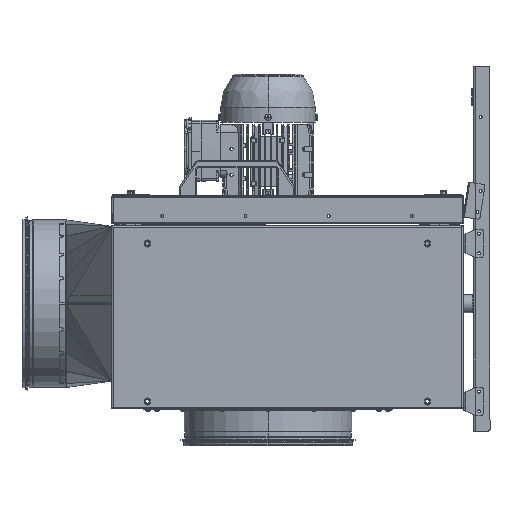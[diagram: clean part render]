
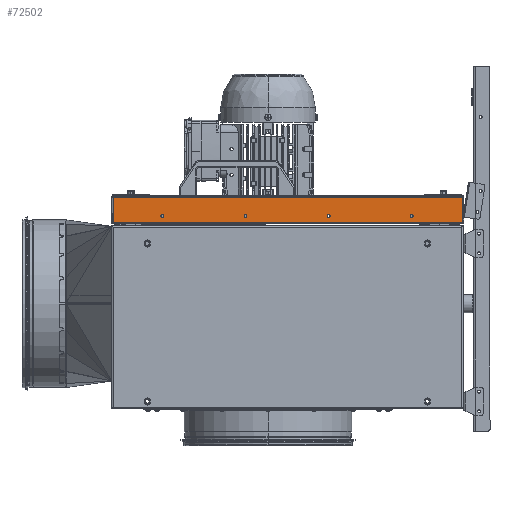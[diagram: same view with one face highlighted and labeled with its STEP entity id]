
A CAD part, left-side view. The second image highlights one B-rep face of the part: STEP entity #72502.
In plain terms, the highlighted planar face has unit normal (-1, 0, 0).
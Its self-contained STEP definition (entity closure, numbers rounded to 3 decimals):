
#400 = CIRCLE ( 'NONE', #118298, 2.1 ) ;
#988 = AXIS2_PLACEMENT_3D ( 'NONE', #16403, #91402, #27168 ) ;
#2045 = CARTESIAN_POINT ( 'NONE',  ( -296.03, 258.04, 313.4 ) ) ;
#3808 = EDGE_LOOP ( 'NONE', ( #71272, #132369, #9439, #13022 ) ) ;
#4324 = AXIS2_PLACEMENT_3D ( 'NONE', #38134, #113226, #48909 ) ;
#7329 = ORIENTED_EDGE ( 'NONE', *, *, #135087, .T. ) ;
#7583 = LINE ( 'NONE', #83509, #36065 ) ;
#9439 = ORIENTED_EDGE ( 'NONE', *, *, #49945, .T. ) ;
#12820 = FACE_BOUND ( 'NONE', #79897, .T. ) ;
#12835 = DIRECTION ( 'NONE',  ( 0., 0., -1. ) ) ;
#13022 = ORIENTED_EDGE ( 'NONE', *, *, #129461, .F. ) ;
#15774 = DIRECTION ( 'NONE',  ( 1., 0., 0. ) ) ;
#16403 = CARTESIAN_POINT ( 'NONE',  ( -296.03, 62.04, 285.4 ) ) ;
#23236 = EDGE_LOOP ( 'NONE', ( #132921, #91050 ) ) ;
#23723 = CARTESIAN_POINT ( 'NONE',  ( -296.03, 62.04, 287.5 ) ) ;
#25145 = VECTOR ( 'NONE', #44253, 1000. ) ;
#27168 = DIRECTION ( 'NONE',  ( 0., 0., -1. ) ) ;
#27274 = CIRCLE ( 'NONE', #104995, 2.1 ) ;
#27592 = CIRCLE ( 'NONE', #41921, 2.1 ) ;
#27998 = VERTEX_POINT ( 'NONE', #103549 ) ;
#30119 = VERTEX_POINT ( 'NONE', #106952 ) ;
#30637 = CARTESIAN_POINT ( 'NONE',  ( -296.03, 62.04, 283.3 ) ) ;
#30669 = CARTESIAN_POINT ( 'NONE',  ( -296.03, 62.04, 285.4 ) ) ;
#36037 = ORIENTED_EDGE ( 'NONE', *, *, #135947, .T. ) ;
#36065 = VECTOR ( 'NONE', #115903, 1000. ) ;
#38134 = CARTESIAN_POINT ( 'NONE',  ( -296.03, 185.04, 285.4 ) ) ;
#38903 = DIRECTION ( 'NONE',  ( 1., 0., 0. ) ) ;
#41435 = DIRECTION ( 'NONE',  ( 0., 0., -1. ) ) ;
#41921 = AXIS2_PLACEMENT_3D ( 'NONE', #111768, #47439, #122515 ) ;
#42615 = ORIENTED_EDGE ( 'NONE', *, *, #137723, .T. ) ;
#42986 = DIRECTION ( 'NONE',  ( 1., 0., 0. ) ) ;
#44253 = DIRECTION ( 'NONE',  ( 0., -1., 0. ) ) ;
#45190 = AXIS2_PLACEMENT_3D ( 'NONE', #50201, #125258, #60950 ) ;
#45234 = EDGE_CURVE ( 'NONE', #74541, #87318, #117537, .T. ) ;
#46133 = ORIENTED_EDGE ( 'NONE', *, *, #63737, .T. ) ;
#47439 = DIRECTION ( 'NONE',  ( 1., 0., 0. ) ) ;
#48909 = DIRECTION ( 'NONE',  ( 0., 0., -1. ) ) ;
#49430 = VERTEX_POINT ( 'NONE', #133792 ) ;
#49945 = EDGE_CURVE ( 'NONE', #49430, #105564, #7583, .T. ) ;
#50201 = CARTESIAN_POINT ( 'NONE',  ( -296.03, -183.96, 285.4 ) ) ;
#54859 = CARTESIAN_POINT ( 'NONE',  ( -296.03, 185.04, 287.5 ) ) ;
#55014 = VERTEX_POINT ( 'NONE', #96561 ) ;
#56096 = VECTOR ( 'NONE', #121477, 1000. ) ;
#57077 = AXIS2_PLACEMENT_3D ( 'NONE', #79975, #15774, #90746 ) ;
#60427 = EDGE_CURVE ( 'NONE', #55014, #49430, #88010, .T. ) ;
#60950 = DIRECTION ( 'NONE',  ( 0., 0., -1. ) ) ;
#61401 = CARTESIAN_POINT ( 'NONE',  ( -296.03, 185.04, 285.4 ) ) ;
#61757 = CIRCLE ( 'NONE', #45190, 2.1 ) ;
#63737 = EDGE_CURVE ( 'NONE', #130154, #27998, #27274, .T. ) ;
#64094 = CARTESIAN_POINT ( 'NONE',  ( -296.03, 259.24, 314.6 ) ) ;
#64255 = CIRCLE ( 'NONE', #4324, 2.1 ) ;
#64647 = ORIENTED_EDGE ( 'NONE', *, *, #84908, .T. ) ;
#66457 = FACE_BOUND ( 'NONE', #115289, .T. ) ;
#67557 = EDGE_CURVE ( 'NONE', #87318, #74541, #127404, .T. ) ;
#69819 = FACE_BOUND ( 'NONE', #23236, .T. ) ;
#70625 = AXIS2_PLACEMENT_3D ( 'NONE', #64094, #42986, #118050 ) ;
#71272 = ORIENTED_EDGE ( 'NONE', *, *, #101904, .T. ) ;
#72210 = DIRECTION ( 'NONE',  ( 0., 0., -1. ) ) ;
#72502 = ADVANCED_FACE ( 'NONE', ( #69819, #12820, #123528, #95031, #66457 ), #85654, .F. ) ;
#74541 = VERTEX_POINT ( 'NONE', #30637 ) ;
#76080 = VERTEX_POINT ( 'NONE', #112605 ) ;
#79897 = EDGE_LOOP ( 'NONE', ( #42615, #46133 ) ) ;
#79975 = CARTESIAN_POINT ( 'NONE',  ( -296.03, -60.96, 285.4 ) ) ;
#80891 = ORIENTED_EDGE ( 'NONE', *, *, #123426, .T. ) ;
#83509 = CARTESIAN_POINT ( 'NONE',  ( -296.03, -258.84, 274.9 ) ) ;
#84908 = EDGE_CURVE ( 'NONE', #134044, #126356, #400, .T. ) ;
#85584 = LINE ( 'NONE', #97748, #25145 ) ;
#85654 = PLANE ( 'NONE',  #70625 ) ;
#86537 = CIRCLE ( 'NONE', #57077, 2.1 ) ;
#87318 = VERTEX_POINT ( 'NONE', #23723 ) ;
#88010 = LINE ( 'NONE', #110706, #56096 ) ;
#90746 = DIRECTION ( 'NONE',  ( 0., 0., -1. ) ) ;
#91034 = CARTESIAN_POINT ( 'NONE',  ( -296.03, -183.96, 287.5 ) ) ;
#91050 = ORIENTED_EDGE ( 'NONE', *, *, #67557, .T. ) ;
#91402 = DIRECTION ( 'NONE',  ( 1., 0., 0. ) ) ;
#92413 = CARTESIAN_POINT ( 'NONE',  ( -296.03, -258.84, 313.4 ) ) ;
#95031 = FACE_BOUND ( 'NONE', #106691, .T. ) ;
#96561 = CARTESIAN_POINT ( 'NONE',  ( -296.03, 258.04, 274.9 ) ) ;
#97748 = CARTESIAN_POINT ( 'NONE',  ( -296.03, 259.24, 313.4 ) ) ;
#101904 = EDGE_CURVE ( 'NONE', #136965, #55014, #106275, .T. ) ;
#103274 = CARTESIAN_POINT ( 'NONE',  ( -296.03, -183.96, 285.4 ) ) ;
#103549 = CARTESIAN_POINT ( 'NONE',  ( -296.03, 185.04, 283.3 ) ) ;
#104995 = AXIS2_PLACEMENT_3D ( 'NONE', #61401, #136404, #72210 ) ;
#105564 = VERTEX_POINT ( 'NONE', #92413 ) ;
#105760 = DIRECTION ( 'NONE',  ( 1., 0., 0. ) ) ;
#106275 = LINE ( 'NONE', #2045, #131337 ) ;
#106691 = EDGE_LOOP ( 'NONE', ( #7329, #36037 ) ) ;
#106889 = AXIS2_PLACEMENT_3D ( 'NONE', #30669, #105760, #41435 ) ;
#106952 = CARTESIAN_POINT ( 'NONE',  ( -296.03, -60.96, 287.5 ) ) ;
#110706 = CARTESIAN_POINT ( 'NONE',  ( -296.03, -260.04, 274.9 ) ) ;
#111768 = CARTESIAN_POINT ( 'NONE',  ( -296.03, -60.96, 285.4 ) ) ;
#112605 = CARTESIAN_POINT ( 'NONE',  ( -296.03, -60.96, 283.3 ) ) ;
#113226 = DIRECTION ( 'NONE',  ( 1., 0., 0. ) ) ;
#113995 = DIRECTION ( 'NONE',  ( 0., 0., -1. ) ) ;
#114034 = CARTESIAN_POINT ( 'NONE',  ( -296.03, 258.04, 313.4 ) ) ;
#115289 = EDGE_LOOP ( 'NONE', ( #80891, #64647 ) ) ;
#115903 = DIRECTION ( 'NONE',  ( 0., 0., 1. ) ) ;
#117537 = CIRCLE ( 'NONE', #106889, 2.1 ) ;
#118050 = DIRECTION ( 'NONE',  ( 0., 0., -1. ) ) ;
#118298 = AXIS2_PLACEMENT_3D ( 'NONE', #103274, #38903, #113995 ) ;
#121477 = DIRECTION ( 'NONE',  ( 0., -1., 0. ) ) ;
#122515 = DIRECTION ( 'NONE',  ( 0., 0., -1. ) ) ;
#123426 = EDGE_CURVE ( 'NONE', #126356, #134044, #61757, .T. ) ;
#123528 = FACE_OUTER_BOUND ( 'NONE', #3808, .T. ) ;
#125258 = DIRECTION ( 'NONE',  ( 1., 0., 0. ) ) ;
#126356 = VERTEX_POINT ( 'NONE', #128387 ) ;
#127404 = CIRCLE ( 'NONE', #988, 2.1 ) ;
#128387 = CARTESIAN_POINT ( 'NONE',  ( -296.03, -183.96, 283.3 ) ) ;
#129461 = EDGE_CURVE ( 'NONE', #136965, #105564, #85584, .T. ) ;
#130154 = VERTEX_POINT ( 'NONE', #54859 ) ;
#131337 = VECTOR ( 'NONE', #12835, 1000. ) ;
#132369 = ORIENTED_EDGE ( 'NONE', *, *, #60427, .T. ) ;
#132921 = ORIENTED_EDGE ( 'NONE', *, *, #45234, .T. ) ;
#133792 = CARTESIAN_POINT ( 'NONE',  ( -296.03, -258.84, 274.9 ) ) ;
#134044 = VERTEX_POINT ( 'NONE', #91034 ) ;
#135087 = EDGE_CURVE ( 'NONE', #76080, #30119, #86537, .T. ) ;
#135947 = EDGE_CURVE ( 'NONE', #30119, #76080, #27592, .T. ) ;
#136404 = DIRECTION ( 'NONE',  ( 1., 0., 0. ) ) ;
#136965 = VERTEX_POINT ( 'NONE', #114034 ) ;
#137723 = EDGE_CURVE ( 'NONE', #27998, #130154, #64255, .T. ) ;
